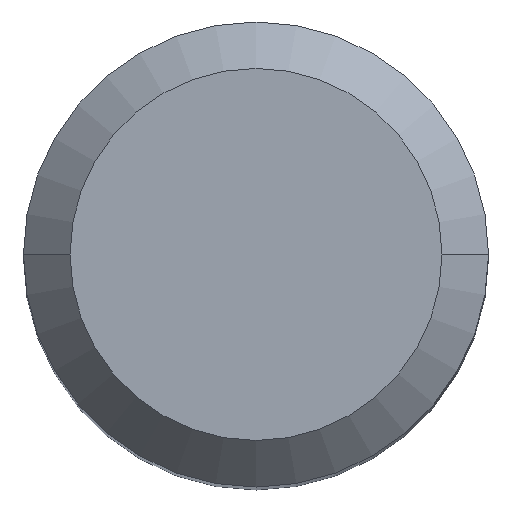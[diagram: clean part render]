
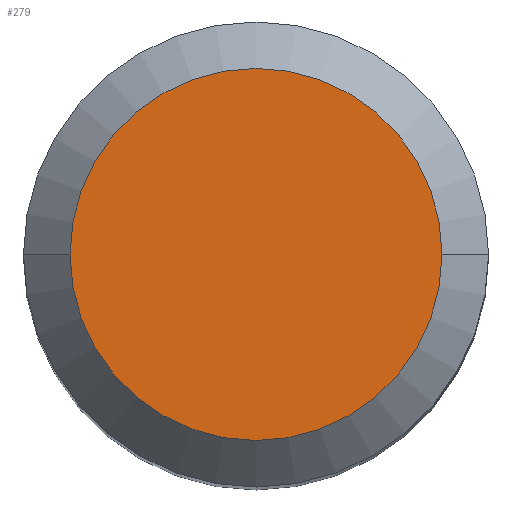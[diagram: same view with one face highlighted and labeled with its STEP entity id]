
A CAD part, top view. The second image highlights one B-rep face of the part: STEP entity #279.
In plain terms, the highlighted planar face has unit normal (0, 0, 1).
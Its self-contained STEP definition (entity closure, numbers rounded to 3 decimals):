
#13 = EDGE_LOOP ( 'NONE', ( #393, #614 ) ) ;
#85 = AXIS2_PLACEMENT_3D ( 'NONE', #216, #400, #598 ) ;
#115 = EDGE_CURVE ( 'NONE', #382, #368, #299, .T. ) ;
#134 = AXIS2_PLACEMENT_3D ( 'NONE', #202, #388, #585 ) ;
#141 = PLANE ( 'NONE',  #243 ) ;
#202 = CARTESIAN_POINT ( 'NONE',  ( 0., 0., 0. ) ) ;
#216 = CARTESIAN_POINT ( 'NONE',  ( 0., 0., 0. ) ) ;
#231 = CIRCLE ( 'NONE', #134, 4.8 ) ;
#238 = DIRECTION ( 'NONE',  ( 1., 0., 0. ) ) ;
#243 = AXIS2_PLACEMENT_3D ( 'NONE', #248, #339, #238 ) ;
#248 = CARTESIAN_POINT ( 'NONE',  ( 0., 4.8, 0. ) ) ;
#279 = ADVANCED_FACE ( 'NONE', ( #583 ), #141, .T. ) ;
#299 = CIRCLE ( 'NONE', #85, 4.8 ) ;
#339 = DIRECTION ( 'NONE',  ( 0., 0., 1. ) ) ;
#368 = VERTEX_POINT ( 'NONE', #420 ) ;
#382 = VERTEX_POINT ( 'NONE', #624 ) ;
#388 = DIRECTION ( 'NONE',  ( 0., 0., -1. ) ) ;
#393 = ORIENTED_EDGE ( 'NONE', *, *, #601, .F. ) ;
#400 = DIRECTION ( 'NONE',  ( 0., 0., -1. ) ) ;
#420 = CARTESIAN_POINT ( 'NONE',  ( -4.8, 0., 0. ) ) ;
#583 = FACE_OUTER_BOUND ( 'NONE', #13, .T. ) ;
#585 = DIRECTION ( 'NONE',  ( -1., 0., 0. ) ) ;
#598 = DIRECTION ( 'NONE',  ( -1., 0., 0. ) ) ;
#601 = EDGE_CURVE ( 'NONE', #368, #382, #231, .T. ) ;
#614 = ORIENTED_EDGE ( 'NONE', *, *, #115, .F. ) ;
#624 = CARTESIAN_POINT ( 'NONE',  ( 4.8, 0., 0. ) ) ;
